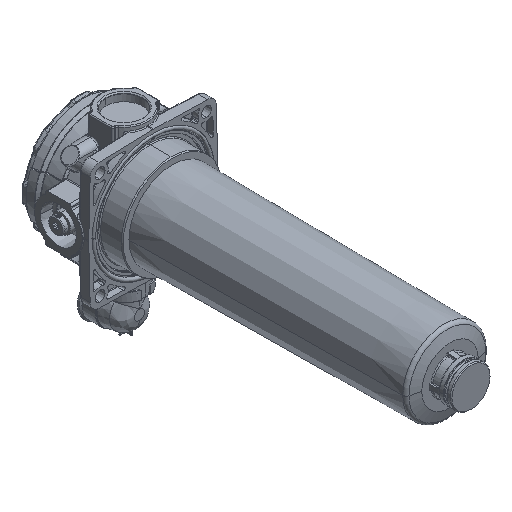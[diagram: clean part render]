
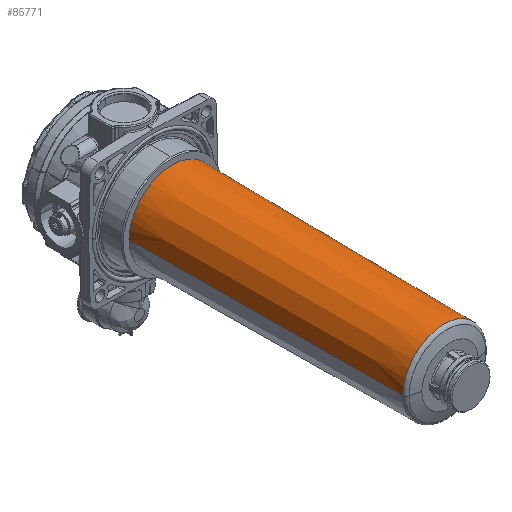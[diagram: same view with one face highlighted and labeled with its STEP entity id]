
A CAD part, isometric view. The second image highlights one B-rep face of the part: STEP entity #85771.
In plain terms, the highlighted conical face has half-angle 0.5 degrees and reference radius 46.311 mm.
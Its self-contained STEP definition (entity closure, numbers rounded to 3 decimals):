
#24657=CARTESIAN_POINT('',(0.,-97.2,0.));
#24658=DIRECTION('',(0.,1.,0.));
#24659=DIRECTION('',(-1.,0.,0.));
#24660=AXIS2_PLACEMENT_3D('',#24657,#24658,#24659);
#24665=DIRECTION('',(-0.009,1.,0.));
#24666=VECTOR('',#24665,297.598);
#24667=CARTESIAN_POINT('',(-45.012,-394.786,
0.003));
#24668=LINE('',#24667,#24666);
#24672=DIRECTION('',(0.009,1.,0.));
#24673=VECTOR('',#24672,297.598);
#24674=CARTESIAN_POINT('',(45.012,-394.786,
0.));
#24675=LINE('',#24674,#24673);
#24679=CARTESIAN_POINT('',(0.,-394.786,
0.));
#24680=DIRECTION('',(0.,1.,0.));
#24681=DIRECTION('',(-1.,0.,0.));
#24682=AXIS2_PLACEMENT_3D('',#24679,#24680,#24681);
#47811=CARTESIAN_POINT('',(-45.012,-394.786,
0.006));
#47812=VERTEX_POINT('',#47811);
#47813=CARTESIAN_POINT('',(45.012,-394.786,
0.));
#47814=VERTEX_POINT('',#47813);
#47815=CARTESIAN_POINT('',(47.609,-97.2,0.));
#47816=CARTESIAN_POINT('',(-47.609,-97.2,0.));
#47817=VERTEX_POINT('',#47815);
#47818=VERTEX_POINT('',#47816);
#85759=CARTESIAN_POINT('',(0.,-245.993,0.));
#85760=DIRECTION('',(0.,1.,0.));
#85761=DIRECTION('',(1.,0.,0.));
#85762=AXIS2_PLACEMENT_3D('',#85759,#85760,#85761);
#85763=CONICAL_SURFACE('',#85762,46.311,0.5);
#85764=ORIENTED_EDGE('',*,*,#85720,.T.);
#85765=ORIENTED_EDGE('',*,*,#85742,.F.);
#85767=ORIENTED_EDGE('',*,*,#85766,.F.);
#85768=ORIENTED_EDGE('',*,*,#85738,.T.);
#85769=EDGE_LOOP('',(#85764,#85765,#85767,#85768));
#85770=FACE_OUTER_BOUND('',#85769,.F.);
#24661=CIRCLE('',#24660,47.609);
#24683=CIRCLE('',#24682,45.012);
#85720=EDGE_CURVE('',#47818,#47817,#24661,.T.);
#85738=EDGE_CURVE('',#47812,#47818,#24668,.T.);
#85742=EDGE_CURVE('',#47814,#47817,#24675,.T.);
#85766=EDGE_CURVE('',#47812,#47814,#24683,.T.);
#85771=ADVANCED_FACE('',(#85770),#85763,.T.);
